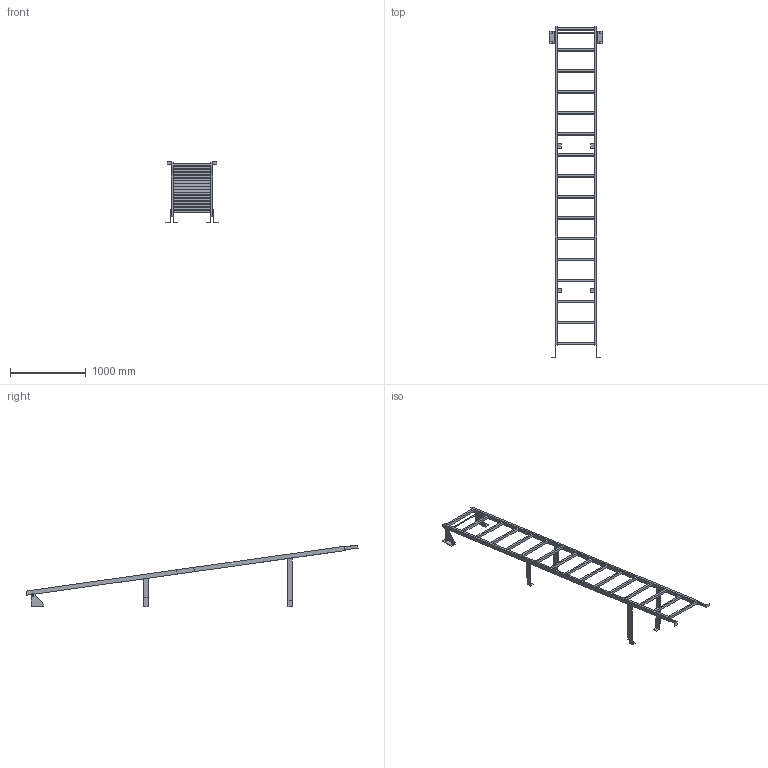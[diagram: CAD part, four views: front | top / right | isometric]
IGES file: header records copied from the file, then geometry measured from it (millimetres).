
Start section:  PTC IGES file: 52310369.igs
Global section: file name: 52310369.igs; native system: Creo Parametric by PTC Inc.; preprocessor: 2022162; author: wep; organization: Unknown; date: 20241017.090725; units: millimetre
Bounding box: 690 x 4387.7 x 817.97 mm (x, y, z)
Surface area: 2931605.5 mm2 (no closed solid volume)
Topology: 0 solids, 0 shells, 196 faces, 1008 edges, 1008 vertices
Faces by surface type: bspline 180, revolution 16
